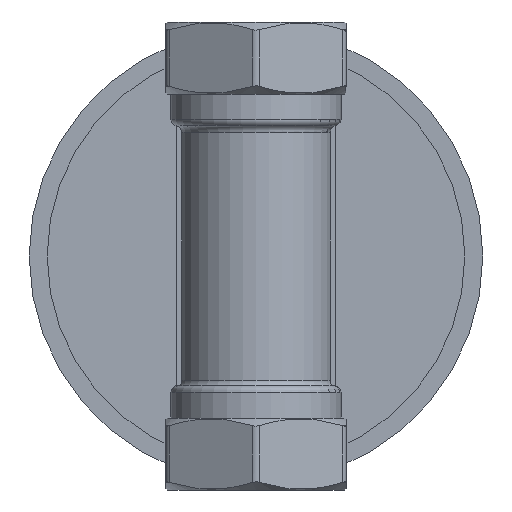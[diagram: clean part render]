
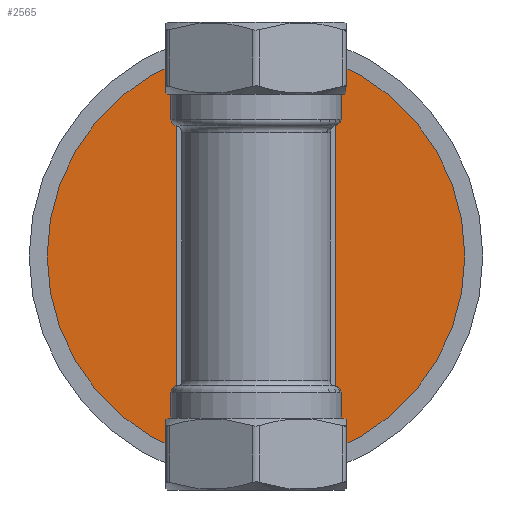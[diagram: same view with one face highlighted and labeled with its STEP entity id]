
A CAD part, front view. The second image highlights one B-rep face of the part: STEP entity #2565.
In plain terms, the highlighted planar face has unit normal (0, -1, 0).
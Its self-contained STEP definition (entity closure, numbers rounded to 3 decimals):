
#2565=ADVANCED_FACE('',(#14814,#14816),#14818,.F.);
#14814=FACE_BOUND('',#14815,.T.);
#14815=EDGE_LOOP('',(#19057));
#14816=FACE_BOUND('',#14817,.T.);
#14817=EDGE_LOOP('',(#19058,#19059,#19060,#19061,#19062,#19063,#19064,#19065,#19066,
#19067,#19068,#19069));
#14818=PLANE('',#14819);
#14819=AXIS2_PLACEMENT_3D('',#14820,#14821,#14822);
#14820=CARTESIAN_POINT('',(0.,31.9,0.));
#14821=DIRECTION('',(0.,1.,0.));
#14822=DIRECTION('',(0.,0.,-1.));
#19057=ORIENTED_EDGE('',*,*,#22415,.F.);
#19058=ORIENTED_EDGE('',*,*,#22416,.T.);
#19059=ORIENTED_EDGE('',*,*,#22417,.T.);
#19060=ORIENTED_EDGE('',*,*,#22418,.T.);
#19061=ORIENTED_EDGE('',*,*,#22419,.T.);
#19062=ORIENTED_EDGE('',*,*,#22420,.T.);
#19063=ORIENTED_EDGE('',*,*,#22421,.T.);
#19064=ORIENTED_EDGE('',*,*,#22422,.T.);
#19065=ORIENTED_EDGE('',*,*,#22423,.T.);
#19066=ORIENTED_EDGE('',*,*,#22424,.T.);
#19067=ORIENTED_EDGE('',*,*,#22425,.T.);
#19068=ORIENTED_EDGE('',*,*,#22426,.T.);
#19069=ORIENTED_EDGE('',*,*,#22427,.T.);
#22415=EDGE_CURVE('',#24591,#24591,#24592,.T.);
#22416=EDGE_CURVE('',#24593,#24594,#24595,.F.);
#22417=EDGE_CURVE('',#24594,#24596,#24597,.T.);
#22418=EDGE_CURVE('',#24596,#24598,#24599,.F.);
#22419=EDGE_CURVE('',#24598,#24600,#24601,.T.);
#22420=EDGE_CURVE('',#24600,#24602,#24603,.F.);
#22421=EDGE_CURVE('',#24602,#24604,#24605,.T.);
#22422=EDGE_CURVE('',#24604,#24606,#24607,.F.);
#22423=EDGE_CURVE('',#24606,#24608,#24609,.T.);
#22424=EDGE_CURVE('',#24608,#24610,#24611,.F.);
#22425=EDGE_CURVE('',#24610,#24612,#24613,.T.);
#22426=EDGE_CURVE('',#24612,#24614,#24615,.F.);
#22427=EDGE_CURVE('',#24614,#24593,#24616,.T.);
#24591=VERTEX_POINT('',#34334);
#24592=CIRCLE('',#34335,29.);
#24593=VERTEX_POINT('',#34339);
#24594=VERTEX_POINT('',#34340);
#24595=LINE('',#34341,#34342);
#24596=VERTEX_POINT('',#34344);
#24597=CIRCLE('',#34345,1.);
#24598=VERTEX_POINT('',#34349);
#24599=LINE('',#34350,#34351);
#24600=VERTEX_POINT('',#34353);
#24601=CIRCLE('',#34354,1.);
#24602=VERTEX_POINT('',#34358);
#24603=LINE('',#34359,#34360);
#24604=VERTEX_POINT('',#34362);
#24605=CIRCLE('',#34363,1.);
#24606=VERTEX_POINT('',#34367);
#24607=LINE('',#34368,#34369);
#24608=VERTEX_POINT('',#34371);
#24609=CIRCLE('',#34372,1.);
#24610=VERTEX_POINT('',#34376);
#24611=LINE('',#34377,#34378);
#24612=VERTEX_POINT('',#34380);
#24613=CIRCLE('',#34381,1.);
#24614=VERTEX_POINT('',#34385);
#24615=LINE('',#34386,#34387);
#24616=CIRCLE('',#34389,1.);
#34334=CARTESIAN_POINT('',(-29.,31.9,0.));
#34335=AXIS2_PLACEMENT_3D('',#34336,#34337,#34338);
#34336=CARTESIAN_POINT('',(0.,31.9,0.));
#34337=DIRECTION('',(0.,1.,0.));
#34338=DIRECTION('',(-1.,0.,0.));
#34339=CARTESIAN_POINT('',(-0.5,31.9,-9.711));
#34340=CARTESIAN_POINT('',(-8.16,31.9,-5.289));
#34341=CARTESIAN_POINT('',(-8.16,31.9,-5.289));
#34342=VECTOR('',#34343,1.);
#34343=DIRECTION('',(0.866,0.,-0.5));
#34344=CARTESIAN_POINT('',(-8.66,31.9,-4.423));
#34345=AXIS2_PLACEMENT_3D('',#34346,#34347,#34348);
#34346=CARTESIAN_POINT('',(-7.66,31.9,-4.423));
#34347=DIRECTION('',(0.,1.,0.));
#34348=DIRECTION('',(-0.5,0.,-0.866));
#34349=CARTESIAN_POINT('',(-8.66,31.9,4.423));
#34350=CARTESIAN_POINT('',(-8.66,31.9,4.423));
#34351=VECTOR('',#34352,1.);
#34352=DIRECTION('',(0.,0.,-1.));
#34353=CARTESIAN_POINT('',(-8.16,31.9,5.289));
#34354=AXIS2_PLACEMENT_3D('',#34355,#34356,#34357);
#34355=CARTESIAN_POINT('',(-7.66,31.9,4.423));
#34356=DIRECTION('',(0.,1.,0.));
#34357=DIRECTION('',(-1.,0.,0.));
#34358=CARTESIAN_POINT('',(-0.5,31.9,9.711));
#34359=CARTESIAN_POINT('',(-0.5,31.9,9.711));
#34360=VECTOR('',#34361,1.);
#34361=DIRECTION('',(-0.866,0.,-0.5));
#34362=CARTESIAN_POINT('',(0.5,31.9,9.711));
#34363=AXIS2_PLACEMENT_3D('',#34364,#34365,#34366);
#34364=CARTESIAN_POINT('',(0.,31.9,8.845));
#34365=DIRECTION('',(0.,1.,0.));
#34366=DIRECTION('',(-0.5,0.,0.866));
#34367=CARTESIAN_POINT('',(8.16,31.9,5.289));
#34368=CARTESIAN_POINT('',(8.16,31.9,5.289));
#34369=VECTOR('',#34370,1.);
#34370=DIRECTION('',(-0.866,0.,0.5));
#34371=CARTESIAN_POINT('',(8.66,31.9,4.423));
#34372=AXIS2_PLACEMENT_3D('',#34373,#34374,#34375);
#34373=CARTESIAN_POINT('',(7.66,31.9,4.423));
#34374=DIRECTION('',(0.,1.,0.));
#34375=DIRECTION('',(0.5,0.,0.866));
#34376=CARTESIAN_POINT('',(8.66,31.9,-4.423));
#34377=CARTESIAN_POINT('',(8.66,31.9,-4.423));
#34378=VECTOR('',#34379,1.);
#34379=DIRECTION('',(0.,0.,1.));
#34380=CARTESIAN_POINT('',(8.16,31.9,-5.289));
#34381=AXIS2_PLACEMENT_3D('',#34382,#34383,#34384);
#34382=CARTESIAN_POINT('',(7.66,31.9,-4.423));
#34383=DIRECTION('',(0.,1.,0.));
#34384=DIRECTION('',(1.,0.,0.));
#34385=CARTESIAN_POINT('',(0.5,31.9,-9.711));
#34386=CARTESIAN_POINT('',(0.5,31.9,-9.711));
#34387=VECTOR('',#34388,1.);
#34388=DIRECTION('',(0.866,0.,0.5));
#34389=AXIS2_PLACEMENT_3D('',#34390,#34391,#34392);
#34390=CARTESIAN_POINT('',(0.,31.9,-8.845));
#34391=DIRECTION('',(0.,1.,0.));
#34392=DIRECTION('',(0.5,0.,-0.866));
